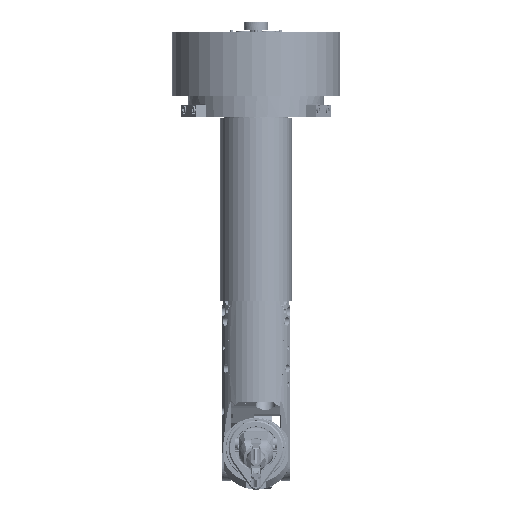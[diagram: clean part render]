
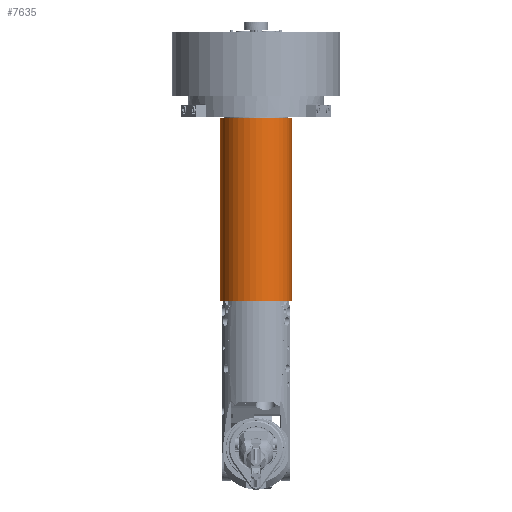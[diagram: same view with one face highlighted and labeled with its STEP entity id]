
A CAD part, front view. The second image highlights one B-rep face of the part: STEP entity #7635.
In plain terms, the highlighted cylindrical face has radius 78 mm (diameter 156 mm), a full revolution.
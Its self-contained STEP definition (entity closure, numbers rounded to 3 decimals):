
#7635 = ADVANCED_FACE( '', ( #18062, #18063 ), #18064, .T. );
#18062 = FACE_OUTER_BOUND( '', #32144, .T. );
#18063 = FACE_OUTER_BOUND( '', #32145, .T. );
#18064 = CYLINDRICAL_SURFACE( '', #32146, 78. );
#32144 = EDGE_LOOP( '', ( #54515 ) );
#32145 = EDGE_LOOP( '', ( #54516 ) );
#32146 = AXIS2_PLACEMENT_3D( '', #54517, #54518, #54519 );
#54515 = ORIENTED_EDGE( '', *, *, #78785, .T. );
#54516 = ORIENTED_EDGE( '', *, *, #74981, .F. );
#54517 = CARTESIAN_POINT( '', ( 0., 0., 525. ) );
#54518 = DIRECTION( '', ( 0., 0., 1. ) );
#54519 = DIRECTION( '', ( -1., 0., 0. ) );
#74981 = EDGE_CURVE( '', #89727, #89727, #89728, .T. );
#78785 = EDGE_CURVE( '', #95479, #95479, #95480, .T. );
#89727 = VERTEX_POINT( '', #118404 );
#89728 = CIRCLE( '', #118405, 78. );
#95479 = VERTEX_POINT( '', #133266 );
#95480 = CIRCLE( '', #133267, 78. );
#118404 = CARTESIAN_POINT( '', ( 78., 0., 400. ) );
#118405 = AXIS2_PLACEMENT_3D( '', #149248, #149249, #149250 );
#133266 = CARTESIAN_POINT( '', ( 78., 0., 0. ) );
#133267 = AXIS2_PLACEMENT_3D( '', #153647, #153648, #153649 );
#149248 = CARTESIAN_POINT( '', ( 0., 0., 400. ) );
#149249 = DIRECTION( '', ( 0., 0., 1. ) );
#149250 = DIRECTION( '', ( 1., 0., 0. ) );
#153647 = CARTESIAN_POINT( '', ( 0., 0., 0. ) );
#153648 = DIRECTION( '', ( 0., 0., 1. ) );
#153649 = DIRECTION( '', ( 1., 0., 0. ) );
